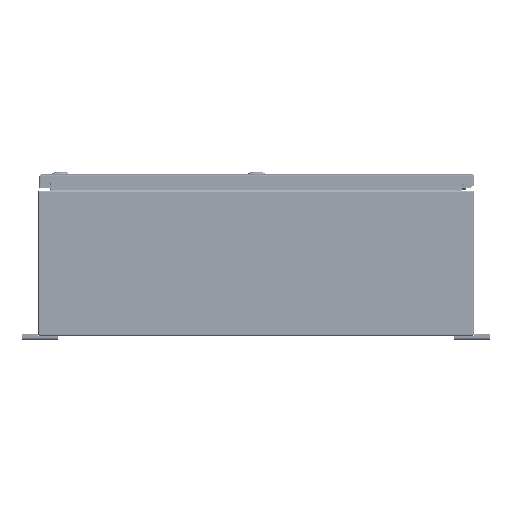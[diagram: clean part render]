
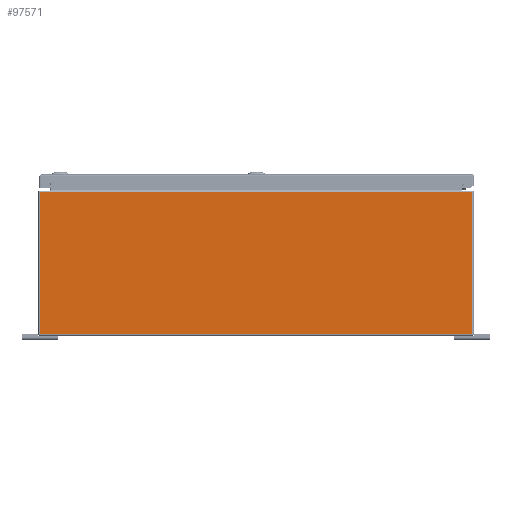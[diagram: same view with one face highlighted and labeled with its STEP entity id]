
A CAD part, left-side view. The second image highlights one B-rep face of the part: STEP entity #97571.
In plain terms, the highlighted planar face has unit normal (-1, 0, 0).
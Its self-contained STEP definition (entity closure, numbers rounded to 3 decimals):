
#5662=PLANE('',#104681);
#8218=LINE('',#139803,#15925);
#8219=LINE('',#139807,#15926);
#8220=LINE('',#139809,#15927);
#8221=LINE('',#139811,#15928);
#8222=LINE('',#139813,#15929);
#8223=LINE('',#139814,#15930);
#15925=VECTOR('',#113933,0.394);
#15926=VECTOR('',#113938,0.394);
#15927=VECTOR('',#113939,0.394);
#15928=VECTOR('',#113940,0.394);
#15929=VECTOR('',#113941,0.394);
#15930=VECTOR('',#113942,0.394);
#25187=FACE_OUTER_BOUND('',#31042,.T.);
#31042=EDGE_LOOP('',(#66375,#66376,#66377,#66378,#66379,#66380));
#41430=VERTEX_POINT('',#139785);
#41437=VERTEX_POINT('',#139802);
#41438=VERTEX_POINT('',#139806);
#41439=VERTEX_POINT('',#139808);
#41440=VERTEX_POINT('',#139810);
#41441=VERTEX_POINT('',#139812);
#51133=EDGE_CURVE('',#41430,#41437,#8218,.T.);
#51135=EDGE_CURVE('',#41438,#41430,#8219,.T.);
#51136=EDGE_CURVE('',#41438,#41439,#8220,.T.);
#51137=EDGE_CURVE('',#41440,#41439,#8221,.T.);
#51138=EDGE_CURVE('',#41441,#41440,#8222,.T.);
#51139=EDGE_CURVE('',#41441,#41437,#8223,.T.);
#66375=ORIENTED_EDGE('',*,*,#51135,.F.);
#66376=ORIENTED_EDGE('',*,*,#51136,.T.);
#66377=ORIENTED_EDGE('',*,*,#51137,.F.);
#66378=ORIENTED_EDGE('',*,*,#51138,.F.);
#66379=ORIENTED_EDGE('',*,*,#51139,.T.);
#66380=ORIENTED_EDGE('',*,*,#51133,.F.);
#97571=ADVANCED_FACE('',(#25187),#5662,.F.);
#104681=AXIS2_PLACEMENT_3D('',#139805,#113936,#113937);
#113933=DIRECTION('',(0.,0.,-1.));
#113936=DIRECTION('center_axis',(1.,0.,0.));
#113937=DIRECTION('ref_axis',(0.,0.,-1.));
#113938=DIRECTION('',(0.,-1.,0.));
#113939=DIRECTION('',(0.,1.,0.));
#113940=DIRECTION('',(0.,-1.,0.));
#113941=DIRECTION('',(0.,0.,1.));
#113942=DIRECTION('',(0.,-1.,0.));
#139785=CARTESIAN_POINT('',(-21.,-14.901,9.901));
#139802=CARTESIAN_POINT('',(-21.,-14.901,0.099));
#139803=CARTESIAN_POINT('',(-21.,-14.901,5.));
#139805=CARTESIAN_POINT('Origin',(-21.,0.,5.));
#139806=CARTESIAN_POINT('',(-21.,-14.126,9.901));
#139807=CARTESIAN_POINT('',(-21.,-7.475,9.901));
#139808=CARTESIAN_POINT('',(-21.,14.126,9.901));
#139809=CARTESIAN_POINT('',(-21.,7.455,9.901));
#139810=CARTESIAN_POINT('',(-21.,14.901,9.901));
#139811=CARTESIAN_POINT('',(-21.,-7.475,9.901));
#139812=CARTESIAN_POINT('',(-21.,14.901,0.099));
#139813=CARTESIAN_POINT('',(-21.,14.901,5.));
#139814=CARTESIAN_POINT('',(-21.,7.5,0.099));
